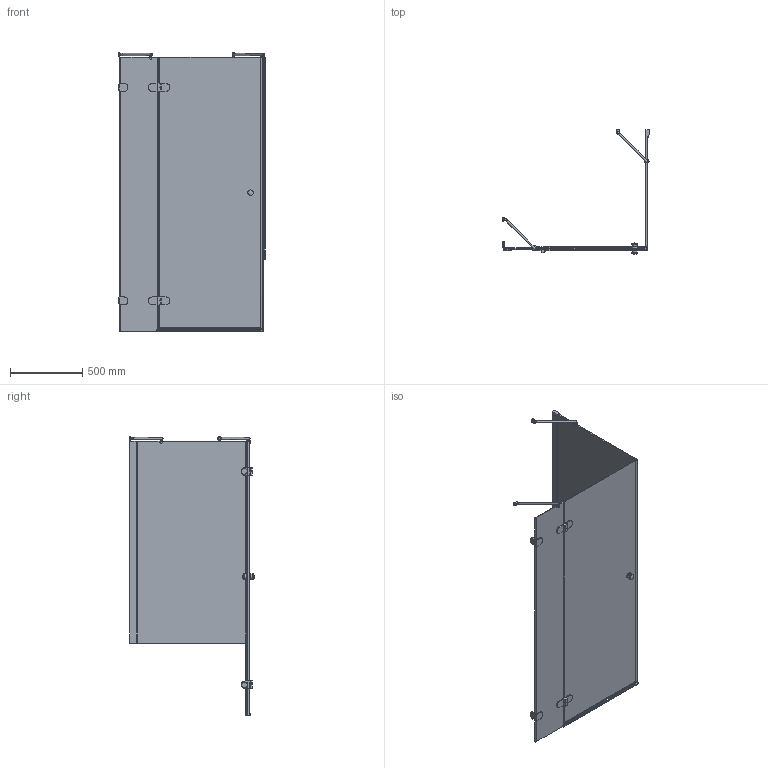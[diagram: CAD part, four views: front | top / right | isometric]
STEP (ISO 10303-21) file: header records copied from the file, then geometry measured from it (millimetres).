
FILE_DESCRIPTION(/* description */ (''),/* implementation_level */ '2;1');
FILE_NAME(/* name */ 'E:\Работа\Сергей\Душевые кабинки\! Работа\LUX SQUARE GK-003VP999\LUX SQUARE GK-003VP999 левая модель\LUX SQUARE GK-003VP999 ЛЕВАЯ-3D.stp',/* time_stamp */ '2017-05-28T15:49:32+03:00',/* author */ ('User'),/* organization */ (''),/* preprocessor_version */ 'ST-DEVELOPER v15.2',/* originating_system */ 'Autodesk Inventor 2014',/* authorisation */ '');
FILE_SCHEMA (('CONFIG_CONTROL_DESIGN'));
Length unit declared in the file: millimetre
Products named in the file (1): LUX SQUARE GK-003VP999 ЛЕВАЯ-3D
Bounding box: 1013.8 x 864.14 x 1931.5 mm (x, y, z)
Volume: 23537569.8 mm3; surface area: 6570488.8 mm2
Topology: 5 solids, 5 shells, 666 faces, 1675 edges, 1042 vertices
Faces by surface type: plane 469, cylinder 153, torus 19, sphere 10, bspline 10, cone 5
Full cylindrical faces by diameter (mm): 3.5 x3, 12 x2, 15 x2, 20 x4, 26 x2, 35 x2, 38 x4, 40 x2
Entity records: 20594 total; most frequent: CARTESIAN_POINT 4203, DIRECTION 3223, ORIENTED_EDGE 3216, EDGE_CURVE 1608, LINE 1165, VECTOR 1165, AXIS2_PLACEMENT_3D 1029, VERTEX_POINT 1015
